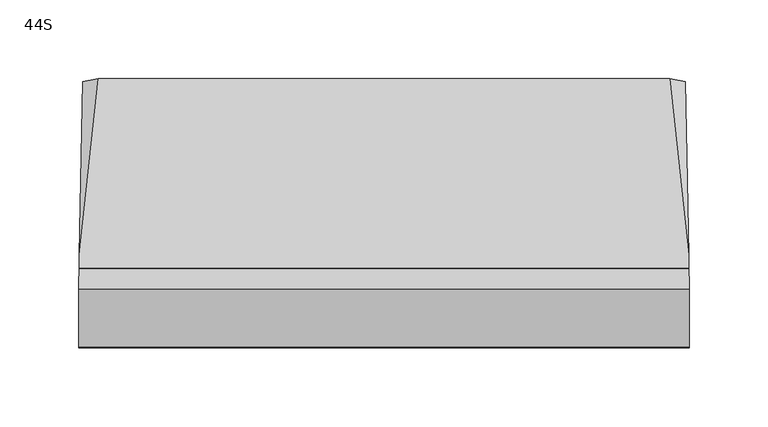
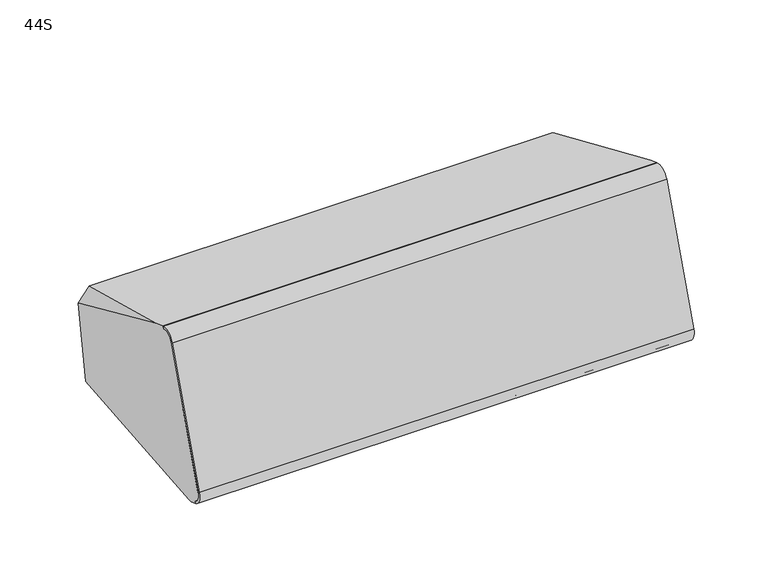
"""IFC4 building model written with IfcOpenShell, lengths in millimetres: proxy geometry, d&b xS-Series 44S Point Source : 44S."""

from ifc_helpers import new_model, si_unit, frame, origin, place, context, project, spatial, polyline, circle_curve, ellipse_curve, source, transform, mapped, element, save
from ifc_brep_helpers import plane_surface, cylinder_surface, revolved_surface, advanced_brep


def proxy_44s_0b05587c(model_context):
    return source(origin(), model_context, "Body", "AdvancedBrep", [
        advanced_brep(
        [(193.2924342, -40.1304238, 82.7136572), (193.2924342, -40.7995779, 80.8751713), (193.4294708, -51.0085421, 76.1146532), (193.4294708, -87.9735419, -25.4458491), (193.2918337, -83.1921621, -35.6995512), (193.2918337, -83.8762023, -37.5789364), (193.1898069, -78.3036462, -39.607181), (193.132384, -74.7519113, -39.6074739), (190.8800877, 68.2424569, -29.4951651), (191.0574064, 78.5489013, 28.955586), (193.132384, -31.3887128, 79.5319346), (-193.2924342, -40.7995779, 80.8751713), (-193.2924342, -40.1304238, 82.7136572), (-193.132384, -31.3887128, 79.5319346), (-191.0574064, 78.5489013, 28.955586), (-190.8800877, 68.2424569, -29.4951651), (-193.132384, -74.7519113, -39.6074739), (-193.1898069, -78.3036462, -39.607181), (-193.2918337, -83.8762023, -37.5789364), (-193.2918337, -83.1921621, -35.6995512), (-193.4294708, -87.9735419, -25.4458491), (-193.4294708, -51.0085421, 76.1146532), (181.3061997, 80.2990071, 38.880929), (-181.3061997, 80.2990071, 38.880929), (-179.9289467, 66.4573306, -39.6191191), (179.9289467, 66.4573306, -39.6191191), (138.5, 71.1207426, -13.1715959), (138.5, 75.6355952, 12.4334057), (128.5, 77.372077, 22.2814833), (51.5, 77.372077, 22.2814833), (41.5, 75.6355952, 12.4334057), (41.5, 71.1207426, -13.1715959), (51.5, 69.3842608, -23.0196734), (128.5, 69.3842608, -23.0196734), (138.5, 66.1967038, -12.303355), (128.5, 64.460222, -22.1514325), (51.5, 64.460222, -22.1514325), (41.5, 66.1967038, -12.303355), (41.5, 70.7115564, 13.3016466), (51.5, 72.4480382, 23.1497241), (128.5, 72.4480382, 23.1497241), (138.5, 70.7115564, 13.3016466)],
        [
            (0, 1),
            (1, 2, ellipse_curve(frame((193.2924342, -43.5238009, 73.3904302), z_axis=(0.9998520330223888, 0.0161646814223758, -0.005883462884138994), x_axis=(0.01720209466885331, -0.9395535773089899, 0.3419695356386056)), 7.9662739, 7.9650952)),
            (2, 3),
            (3, 4, ellipse_curve(frame((193.2918337, -80.4560009, -28.1820102), z_axis=(0.9998520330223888, 0.0161646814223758, -0.005883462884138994), x_axis=(0.01720209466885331, -0.9395535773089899, 0.3419695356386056)), 8.0011839, 8.0)),
            (4, 5),
            (5, 6),
            (6, 7),
            (7, 8),
            (8, 9),
            (9, 10),
            (10, 0),
            (11, 12),
            (12, 13),
            (13, 14),
            (14, 15),
            (15, 16),
            (16, 17),
            (17, 18),
            (18, 19),
            (19, 20, ellipse_curve(frame((-193.2918337, -80.4560009, -28.1820102), z_axis=(-0.999852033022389, 0.016164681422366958, -0.005883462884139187), x_axis=(0.017202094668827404, 0.9395535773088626, -0.34196953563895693)), 8.0011839, 8.0)),
            (20, 21),
            (21, 11, ellipse_curve(frame((-193.2924342, -43.5238009, 73.3904302), z_axis=(-0.999852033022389, 0.016164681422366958, -0.005883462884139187), x_axis=(0.017202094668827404, 0.9395535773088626, -0.34196953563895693)), 7.9662739, 7.9650952)),
            (0, 12),
            (11, 1),
            (21, 2),
            (20, 3),
            (19, 4),
            (18, 5),
            (17, 6),
            (10, 22),
            (22, 23),
            (23, 13),
            (16, 24),
            (24, 25),
            (25, 7),
            (9, 22),
            (23, 14),
            (15, 24),
            (25, 8),
            (26, 27),
            (27, 28, circle_curve(frame((128.5, 75.6355952, 12.4334057), z_axis=(0.0, -0.9848077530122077, 0.17364817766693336), x_axis=(0.0, -0.17364817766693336, -0.9848077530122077)), 10.0)),
            (28, 29),
            (29, 30, circle_curve(frame((51.5, 75.6355952, 12.4334057), z_axis=(0.0, -0.9848077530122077, 0.17364817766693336), x_axis=(0.0, -0.17364817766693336, -0.9848077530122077)), 10.0)),
            (30, 31),
            (31, 32, circle_curve(frame((51.5, 71.1207426, -13.1715959), z_axis=(0.0, -0.9848077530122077, 0.17364817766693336), x_axis=(0.0, -0.17364817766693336, -0.9848077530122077)), 10.0)),
            (32, 33),
            (33, 26, circle_curve(frame((128.5, 71.1207426, -13.1715959), z_axis=(0.0, -0.9848077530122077, 0.17364817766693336), x_axis=(0.0, -0.17364817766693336, -0.9848077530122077)), 10.0)),
            (34, 35, circle_curve(frame((128.5, 66.1967038, -12.303355), z_axis=(0.0, 0.9848077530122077, -0.17364817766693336), x_axis=(0.0, -0.17364817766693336, -0.9848077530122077)), 10.0)),
            (35, 36),
            (36, 37, circle_curve(frame((51.5, 66.1967038, -12.303355), z_axis=(0.0, 0.9848077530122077, -0.17364817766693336), x_axis=(0.0, -0.17364817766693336, -0.9848077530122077)), 10.0)),
            (37, 38),
            (38, 39, circle_curve(frame((51.5, 70.7115564, 13.3016466), z_axis=(0.0, 0.9848077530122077, -0.17364817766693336), x_axis=(0.0, -0.17364817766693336, -0.9848077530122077)), 10.0)),
            (39, 40),
            (40, 41, circle_curve(frame((128.5, 70.7115564, 13.3016466), z_axis=(0.0, 0.9848077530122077, -0.17364817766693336), x_axis=(0.0, -0.17364817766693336, -0.9848077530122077)), 10.0)),
            (41, 34),
            (41, 27),
            (26, 34),
            (40, 28),
            (39, 29),
            (38, 30),
            (37, 31),
            (36, 32),
            (35, 33),
        ],
        [
            plane_surface(frame((193.8309972, -125.6372625, -60.6895534), z_axis=(0.999852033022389, 0.016164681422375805, -0.005883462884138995), x_axis=(0.0, 0.3420201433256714, 0.9396926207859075))),
            plane_surface(frame((-190.7119283, 44.7217815, -122.6951745), z_axis=(-0.999852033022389, 0.016164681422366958, -0.005883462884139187), x_axis=(0.0, 0.3420201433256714, 0.9396926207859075))),
            plane_surface(frame((207.1452552, -40.1304238, 82.7136572), z_axis=(0.0, -0.9396926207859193, 0.34202014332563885), x_axis=(-1.0, 0.0, 0.0))),
            cylinder_surface(frame((-207.1452552, -43.5238009, 73.3904302), z_axis=(1.0, 0.0, 0.0), x_axis=(0.0, 0.3420201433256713, 0.9396926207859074)), 7.9650952),
            plane_surface(frame((207.1452552, -51.0085421, 76.1146532), z_axis=(0.0, -0.9396926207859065, 0.342020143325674), x_axis=(-1.0, 0.0, 0.0))),
            cylinder_surface(frame((-207.1452552, -80.4560009, -28.1820102), z_axis=(1.0, 0.0, 0.0), x_axis=(0.0, 0.3420201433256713, 0.9396926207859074)), 8.0),
            plane_surface(frame((207.1452552, -83.1921621, -35.6995512), z_axis=(0.0, -0.9396926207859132, 0.34202014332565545), x_axis=(-1.0, 0.0, 0.0))),
            plane_surface(frame((207.1452552, -83.8762023, -37.5789364), z_axis=(0.0, -0.3420201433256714, -0.9396926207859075), x_axis=(-1.0, 0.0, 0.0))),
            plane_surface(frame((207.1452552, -34.5250679, 80.6734745), z_axis=(0.0, 0.3420201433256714, 0.9396926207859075), x_axis=(-1.0, 0.0, 0.0))),
            plane_surface(frame((0.0, 66.4573306, -39.6191191), z_axis=(0.0, -8.246800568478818e-05, -0.9999999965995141), x_axis=(1.0, 0.0, 0.0))),
            plane_surface(frame((186.6967137, 90.9912157, 27.7871762), z_axis=(0.7053631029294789, 0.30719972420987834, 0.6388201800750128), x_axis=(-0.7071067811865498, 0.2418447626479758, 0.6644630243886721))),
            plane_surface(frame((-186.6967137, 90.9912157, 27.7871762), z_axis=(-0.705363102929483, 0.3071997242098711, 0.6388201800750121), x_axis=(-0.7071067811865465, -0.24184476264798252, -0.6644630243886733))),
            plane_surface(frame((-186.6967137, 68.7720433, -33.2594985), z_axis=(-0.6719558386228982, 0.0627687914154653, -0.7379264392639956), x_axis=(0.7071067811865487, -0.24184476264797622, -0.6644630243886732))),
            plane_surface(frame((186.6967137, 68.7720433, -33.2594985), z_axis=(0.6719558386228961, 0.06276879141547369, -0.737926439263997), x_axis=(0.7071067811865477, 0.2418447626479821, 0.6644630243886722))),
            plane_surface(frame((250.0, 83.3421534, 56.1394693), z_axis=(0.0, 0.9848077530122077, -0.17364817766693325), x_axis=(-1.0, 0.0, 0.0))),
            plane_surface(frame((138.5, 75.3749683, 39.7491699), z_axis=(0.0, 0.9848077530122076, -0.17364817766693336), x_axis=(0.0, 0.17364817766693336, 0.9848077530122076))),
            plane_surface(frame((138.5, 66.1967038, -12.303355), z_axis=(-1.0000000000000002, 0.0, 0.0), x_axis=(0.0, 0.9848077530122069, -0.17364817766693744))),
            revolved_surface(polyline([(128.5, 68.97507462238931, 3.4535690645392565), (128.5, 73.899113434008, 2.585328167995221)]), (128.5, 75.6355952, 12.4334057), (0.0, -0.9848077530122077, 0.17364817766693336)),
            plane_surface(frame((128.5, 72.4480382, 23.1497241), z_axis=(0.0, -0.17364817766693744, -0.9848077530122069), x_axis=(0.0, 0.9848077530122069, -0.17364817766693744))),
            revolved_surface(polyline([(51.5, 68.97507462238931, 3.4535690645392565), (51.5, 73.899113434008, 2.585328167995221)]), (51.5, 75.6355952, 12.4334057), (0.0, -0.9848077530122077, 0.17364817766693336)),
            plane_surface(frame((41.5, 70.7115564, 13.3016466), z_axis=(1.0000000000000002, 0.0, 0.0), x_axis=(0.0, 0.9848077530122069, -0.17364817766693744))),
            revolved_surface(polyline([(51.5, 64.46022199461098, -22.151432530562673), (51.5, 69.38426082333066, -23.019673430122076)]), (51.5, 71.1207426, -13.1715959), (0.0, -0.9848077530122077, 0.17364817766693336)),
            plane_surface(frame((51.5, 64.460222, -22.1514325), z_axis=(0.0, 0.17364817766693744, 0.9848077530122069), x_axis=(0.0, 0.9848077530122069, -0.17364817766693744))),
            revolved_surface(polyline([(128.5, 64.46022199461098, -22.151432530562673), (128.5, 69.38426082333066, -23.019673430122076)]), (128.5, 71.1207426, -13.1715959), (0.0, -0.9848077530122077, 0.17364817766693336)),
        ],
        [
            (0, [[1, 2, 3, 4, 5, 6, 7, 8, 9, 10, 11]]),
            (1, [[12, 13, 14, 15, 16, 17, 18, 19, 20, 21, 22]]),
            (2, [[23, -12, 24, -1]]),
            (3, [[-24, -22, 25, -2]]),
            (4, [[-25, -21, 26, -3]]),
            (5, [[-26, -20, 27, -4]]),
            (6, [[-27, -19, 28, -5]]),
            (7, [[-28, -18, 29, -6]]),
            (8, [[-23, -11, 30, 31, 32, -13]]),
            (9, [[-29, -17, 33, 34, 35, -7]]),
            (10, [[-30, -10, 36]]),
            (11, [[-32, 37, -14]]),
            (12, [[-33, -16, 38]]),
            (13, [[-35, 39, -8]]),
            (14, [[-31, -36, -9, -39, -34, -38, -15, -37], [40, 41, 42, 43, 44, 45, 46, 47]]),
            (15, [[48, 49, 50, 51, 52, 53, 54, 55]]),
            (16, [[-55, 56, -40, 57]]),
            (17, [[-54, 58, -41, -56]]),
            (18, [[-53, 59, -42, -58]]),
            (19, [[-52, 60, -43, -59]]),
            (20, [[-51, 61, -44, -60]]),
            (21, [[-50, 62, -45, -61]]),
            (22, [[-49, 63, -46, -62]]),
            (23, [[-48, -57, -47, -63]]),
        ],
    ),
        advanced_brep(
        [(193.4294708, -87.9735419, -25.4458491), (193.4294708, -51.0085421, 76.1146532), (193.2924342, -40.7995779, 80.8751713), (193.2924342, -40.1304238, 82.7136572), (193.4644806, -52.9475514, 76.7369324), (193.4644806, -89.8857269, -24.7498706), (193.2918337, -83.8881405, -37.6117362), (193.2918337, -83.1921621, -35.6995512), (-193.4294708, -51.0085421, 76.1146532), (-193.4294708, -87.9735419, -25.4458491), (-193.2918337, -83.1921621, -35.6995512), (-193.2918337, -83.8881405, -37.6117362), (-193.4644806, -89.8857269, -24.7498706), (-193.4644806, -52.9475514, 76.7369324), (-193.2924342, -40.1304238, 82.7136572), (-193.2924342, -40.7995779, 80.8751713)],
        [
            (0, 1),
            (1, 2, ellipse_curve(frame((193.2924342, -43.5238009, 73.3904302), z_axis=(-0.9998520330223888, -0.0161646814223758, 0.005883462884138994), x_axis=(-0.017202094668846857, 0.9395535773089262, -0.34196953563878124)), 7.9662739, 7.9650952)),
            (2, 3),
            (3, 4, ellipse_curve(frame((193.2924342, -43.5506252, 73.316731), z_axis=(0.9998520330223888, 0.0161646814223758, -0.005883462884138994), x_axis=(0.017202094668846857, -0.9395535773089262, 0.34196953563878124)), 10.0014799, 10.0)),
            (4, 5),
            (5, 6, ellipse_curve(frame((193.2918337, -80.4560009, -28.1820102), z_axis=(0.9998520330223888, 0.0161646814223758, -0.005883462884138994), x_axis=(0.017202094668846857, -0.9395535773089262, 0.34196953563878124)), 10.0363899, 10.0349048)),
            (6, 7),
            (7, 0, ellipse_curve(frame((193.2918337, -80.4560009, -28.1820102), z_axis=(-0.9998520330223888, -0.0161646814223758, 0.005883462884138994), x_axis=(-0.017202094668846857, 0.9395535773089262, -0.34196953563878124)), 8.0011839, 8.0)),
            (8, 9),
            (9, 10, ellipse_curve(frame((-193.2918337, -80.4560009, -28.1820102), z_axis=(0.999852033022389, -0.016164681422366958, 0.005883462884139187), x_axis=(-0.017202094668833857, -0.9395535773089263, 0.3419695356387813)), 8.0011839, 8.0)),
            (10, 11),
            (11, 12, ellipse_curve(frame((-193.2918337, -80.4560009, -28.1820102), z_axis=(-0.999852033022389, 0.016164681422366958, -0.005883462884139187), x_axis=(0.017202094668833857, 0.9395535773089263, -0.3419695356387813)), 10.0363899, 10.0349048)),
            (12, 13),
            (13, 14, ellipse_curve(frame((-193.2924342, -43.5506252, 73.316731), z_axis=(-0.999852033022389, 0.016164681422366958, -0.005883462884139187), x_axis=(0.017202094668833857, 0.9395535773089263, -0.3419695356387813)), 10.0014799, 10.0)),
            (14, 15),
            (15, 8, ellipse_curve(frame((-193.2924342, -43.5238009, 73.3904302), z_axis=(0.999852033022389, -0.016164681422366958, 0.005883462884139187), x_axis=(-0.017202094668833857, -0.9395535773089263, 0.3419695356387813)), 7.9662739, 7.9650952)),
            (0, 9),
            (8, 1),
            (15, 2),
            (14, 3),
            (13, 4),
            (12, 5),
            (11, 6),
            (10, 7),
        ],
        [
            plane_surface(frame((193.8309972, -125.6372625, -60.6895534), z_axis=(0.999852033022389, 0.016164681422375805, -0.005883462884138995), x_axis=(0.0, 0.3420201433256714, 0.9396926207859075))),
            plane_surface(frame((-190.7119283, 44.7217815, -122.6951745), z_axis=(-0.999852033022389, 0.016164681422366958, -0.005883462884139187), x_axis=(0.0, 0.3420201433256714, 0.9396926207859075))),
            plane_surface(frame((202.5, -87.9735419, -25.4458491), z_axis=(0.0, 0.9396926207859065, -0.342020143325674), x_axis=(-1.0, 0.0, 0.0))),
            revolved_surface(polyline([(-193.4294708, -46.24802390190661, 65.90568901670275), (193.4294708, -46.24802390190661, 65.90568901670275)]), (-202.5, -43.5238009, 73.3904302), (-1.0, 0.0, 0.0)),
            plane_surface(frame((202.5, -40.7995779, 80.8751713), z_axis=(0.0, 0.9396926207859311, -0.3420201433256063), x_axis=(-1.0, 0.0, 0.0))),
            cylinder_surface(frame((-202.5, -43.5506252, 73.316731), z_axis=(1.0, 0.0, 0.0), x_axis=(0.0, -0.3420201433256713, -0.9396926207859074)), 10.0),
            plane_surface(frame((202.5, -52.9475514, 76.7369324), z_axis=(0.0, -0.9396926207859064, 0.34202014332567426), x_axis=(-1.0, 0.0, 0.0))),
            cylinder_surface(frame((-202.5, -80.4560009, -28.1820102), z_axis=(1.0, 0.0, 0.0), x_axis=(0.0, -0.3420201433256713, -0.9396926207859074)), 10.0349048),
            plane_surface(frame((202.5, -83.8881405, -37.6117362), z_axis=(0.0, 0.9396926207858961, -0.3420201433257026), x_axis=(-1.0, 0.0, 0.0))),
            revolved_surface(polyline([(-193.42947082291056, -83.19216204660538, -35.69955116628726), (193.42947082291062, -83.19216204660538, -35.69955116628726)]), (-202.5, -80.4560009, -28.1820102), (-1.0, 0.0, 0.0)),
        ],
        [
            (0, [[1, 2, 3, 4, 5, 6, 7, 8]]),
            (1, [[9, 10, 11, 12, 13, 14, 15, 16]]),
            (2, [[17, -9, 18, -1]]),
            (3, [[-18, -16, 19, -2]]),
            (4, [[-19, -15, 20, -3]]),
            (5, [[-20, -14, 21, -4]]),
            (6, [[-21, -13, 22, -5]]),
            (7, [[-22, -12, 23, -6]]),
            (8, [[-23, -11, 24, -7]]),
            (9, [[-17, -8, -24, -10]]),
        ],
    ),
        advanced_brep(
        [(193.4294708, -87.9735419, -25.4458491), (193.4294708, -51.0085421, 76.1146532), (193.2924342, -40.7995779, 80.8751713), (193.2924342, -40.1304238, 82.7136572), (193.4644806, -52.9475514, 76.7369324), (193.4644806, -89.8857269, -24.7498706), (193.2918337, -83.8881405, -37.6117362), (193.2918337, -83.1921621, -35.6995512), (-193.4294708, -51.0085421, 76.1146532), (-193.4294708, -87.9735419, -25.4458491), (-193.2918337, -83.1921621, -35.6995512), (-193.2918337, -83.8881405, -37.6117362), (-193.4644806, -89.8857269, -24.7498706), (-193.4644806, -52.9475514, 76.7369324), (-193.2924342, -40.1304238, 82.7136572), (-193.2924342, -40.7995779, 80.8751713)],
        [
            (0, 1),
            (1, 2, ellipse_curve(frame((193.2924342, -43.5238009, 73.3904302), z_axis=(-0.9998520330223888, -0.0161646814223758, 0.005883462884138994), x_axis=(-0.017202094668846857, 0.9395535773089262, -0.34196953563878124)), 7.9662739, 7.9650952)),
            (2, 3),
            (3, 4, ellipse_curve(frame((193.2924342, -43.5506252, 73.316731), z_axis=(0.9998520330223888, 0.0161646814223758, -0.005883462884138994), x_axis=(0.017202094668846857, -0.9395535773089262, 0.34196953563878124)), 10.0014799, 10.0)),
            (4, 5),
            (5, 6, ellipse_curve(frame((193.2918337, -80.4560009, -28.1820102), z_axis=(0.9998520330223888, 0.0161646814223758, -0.005883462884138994), x_axis=(0.017202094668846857, -0.9395535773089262, 0.34196953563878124)), 10.0363899, 10.0349048)),
            (6, 7),
            (7, 0, ellipse_curve(frame((193.2918337, -80.4560009, -28.1820102), z_axis=(-0.9998520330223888, -0.0161646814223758, 0.005883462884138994), x_axis=(-0.017202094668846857, 0.9395535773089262, -0.34196953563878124)), 8.0011839, 8.0)),
            (8, 9),
            (9, 10, ellipse_curve(frame((-193.2918337, -80.4560009, -28.1820102), z_axis=(0.999852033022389, -0.016164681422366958, 0.005883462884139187), x_axis=(-0.017202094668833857, -0.9395535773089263, 0.3419695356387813)), 8.0011839, 8.0)),
            (10, 11),
            (11, 12, ellipse_curve(frame((-193.2918337, -80.4560009, -28.1820102), z_axis=(-0.999852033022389, 0.016164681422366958, -0.005883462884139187), x_axis=(0.017202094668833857, 0.9395535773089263, -0.3419695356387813)), 10.0363899, 10.0349048)),
            (12, 13),
            (13, 14, ellipse_curve(frame((-193.2924342, -43.5506252, 73.316731), z_axis=(-0.999852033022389, 0.016164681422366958, -0.005883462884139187), x_axis=(0.017202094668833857, 0.9395535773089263, -0.3419695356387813)), 10.0014799, 10.0)),
            (14, 15),
            (15, 8, ellipse_curve(frame((-193.2924342, -43.5238009, 73.3904302), z_axis=(0.999852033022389, -0.016164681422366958, 0.005883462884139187), x_axis=(-0.017202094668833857, -0.9395535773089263, 0.3419695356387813)), 7.9662739, 7.9650952)),
            (0, 9),
            (8, 1),
            (15, 2),
            (14, 3),
            (13, 4),
            (12, 5),
            (11, 6),
            (10, 7),
        ],
        [
            plane_surface(frame((193.8309972, -125.6372625, -60.6895534), z_axis=(0.999852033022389, 0.016164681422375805, -0.005883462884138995), x_axis=(0.0, 0.3420201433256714, 0.9396926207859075))),
            plane_surface(frame((-190.7119283, 44.7217815, -122.6951745), z_axis=(-0.999852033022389, 0.016164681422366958, -0.005883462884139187), x_axis=(0.0, 0.3420201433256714, 0.9396926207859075))),
            plane_surface(frame((202.5, -87.9735419, -25.4458491), z_axis=(0.0, 0.9396926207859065, -0.342020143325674), x_axis=(-1.0, 0.0, 0.0))),
            revolved_surface(polyline([(-193.4294708, -46.24802390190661, 65.90568901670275), (193.4294708, -46.24802390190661, 65.90568901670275)]), (-202.5, -43.5238009, 73.3904302), (-1.0, 0.0, 0.0)),
            plane_surface(frame((202.5, -40.7995779, 80.8751713), z_axis=(0.0, 0.9396926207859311, -0.3420201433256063), x_axis=(-1.0, 0.0, 0.0))),
            cylinder_surface(frame((-202.5, -43.5506252, 73.316731), z_axis=(1.0, 0.0, 0.0), x_axis=(0.0, -0.3420201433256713, -0.9396926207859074)), 10.0),
            plane_surface(frame((202.5, -52.9475514, 76.7369324), z_axis=(0.0, -0.9396926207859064, 0.34202014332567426), x_axis=(-1.0, 0.0, 0.0))),
            cylinder_surface(frame((-202.5, -80.4560009, -28.1820102), z_axis=(1.0, 0.0, 0.0), x_axis=(0.0, -0.3420201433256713, -0.9396926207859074)), 10.0349048),
            plane_surface(frame((202.5, -83.8881405, -37.6117362), z_axis=(0.0, 0.9396926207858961, -0.3420201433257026), x_axis=(-1.0, 0.0, 0.0))),
            revolved_surface(polyline([(-193.42947082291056, -83.19216204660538, -35.69955116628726), (193.42947082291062, -83.19216204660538, -35.69955116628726)]), (-202.5, -80.4560009, -28.1820102), (-1.0, 0.0, 0.0)),
        ],
        [
            (0, [[1, 2, 3, 4, 5, 6, 7, 8]]),
            (1, [[9, 10, 11, 12, 13, 14, 15, 16]]),
            (2, [[17, -9, 18, -1]]),
            (3, [[-18, -16, 19, -2]]),
            (4, [[-19, -15, 20, -3]]),
            (5, [[-20, -14, 21, -4]]),
            (6, [[-21, -13, 22, -5]]),
            (7, [[-22, -12, 23, -6]]),
            (8, [[-23, -11, 24, -7]]),
            (9, [[-17, -8, -24, -10]]),
        ],
    ),
    ])


if __name__ == "__main__":
    model = new_model("IFC4")
    model_context = context("Model", 3, world=origin())
    ifc_project = project(units=[si_unit("LENGTHUNIT", "METRE", prefix="MILLI")], contexts=[model_context])
    site = spatial("IfcSite", under=ifc_project)
    building = spatial("IfcBuilding", under=site)
    placement = place(None, origin())
    proxy_44s_shape = proxy_44s_0b05587c(model_context)
    element("IfcBuildingElementProxy", 1, Name="d&b xS-Series 44S Point Source : 44S", ObjectType="d&b xS-Series 44S Point Source : 44S", at=placement, inside=building, context=model_context, shape_type="MappedRepresentation", body=[
        mapped(proxy_44s_shape, transform((0.0, 0.0, 0.0), x_axis=(1.0, 0.0, 0.0), y_axis=(0.0, 1.0, 0.0), z_axis=(0.0, 0.0, 1.0))),
    ])
    save(model, "model.ifc")
